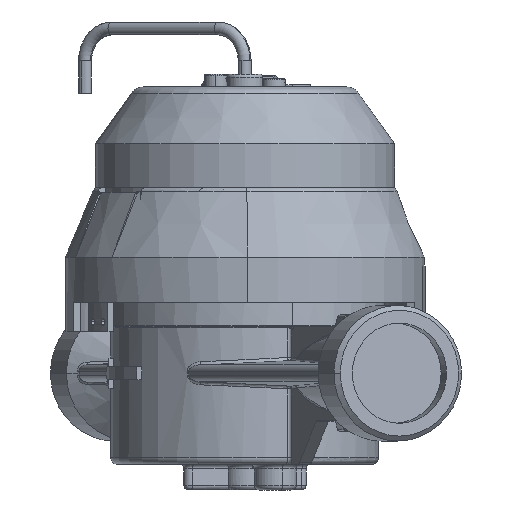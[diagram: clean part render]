
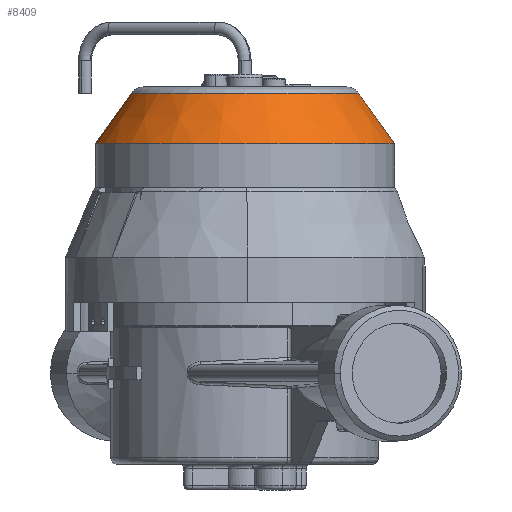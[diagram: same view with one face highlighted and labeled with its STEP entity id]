
A CAD part, front view. The second image highlights one B-rep face of the part: STEP entity #8409.
In plain terms, the highlighted conical face has half-angle 35.507 degrees and reference radius 46.25 mm.
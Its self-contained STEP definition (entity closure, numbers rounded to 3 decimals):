
#1281 = DIRECTION ( 'NONE',  ( 0.581, 0., -0.814 ) ) ;
#3162 = DIRECTION ( 'NONE',  ( -1., 0., 0. ) ) ;
#3364 = EDGE_CURVE ( 'NONE', #4853, #14210, #48915, .T. ) ;
#4049 = EDGE_CURVE ( 'NONE', #4853, #9244, #37454, .T. ) ;
#4815 = CARTESIAN_POINT ( 'NONE',  ( 130.326, 193.717, 168.802 ) ) ;
#4853 = VERTEX_POINT ( 'NONE', #14024 ) ;
#7125 = AXIS2_PLACEMENT_3D ( 'NONE', #50270, #46332, #3162 ) ;
#8409 = ADVANCED_FACE ( 'NONE', ( #28457 ), #12176, .T. ) ;
#9244 = VERTEX_POINT ( 'NONE', #4815 ) ;
#10560 = ORIENTED_EDGE ( 'NONE', *, *, #4049, .T. ) ;
#12176 = CONICAL_SURFACE ( 'NONE', #49201, 46.25, 0.62 ) ;
#14024 = CARTESIAN_POINT ( 'NONE',  ( 200.518, 193.717, 168.802 ) ) ;
#14210 = VERTEX_POINT ( 'NONE', #32170 ) ;
#14300 = VERTEX_POINT ( 'NONE', #45550 ) ;
#15478 = CARTESIAN_POINT ( 'NONE',  ( 165.422, 193.717, 153.169 ) ) ;
#16081 = VECTOR ( 'NONE', #42329, 1000. ) ;
#21191 = AXIS2_PLACEMENT_3D ( 'NONE', #15478, #51813, #23396 ) ;
#22011 = CIRCLE ( 'NONE', #21191, 46.25 ) ;
#22052 = DIRECTION ( 'NONE',  ( -1., 0., 0. ) ) ;
#23396 = DIRECTION ( 'NONE',  ( -1., 0., 0. ) ) ;
#24592 = EDGE_CURVE ( 'NONE', #14210, #14300, #22011, .T. ) ;
#24970 = ORIENTED_EDGE ( 'NONE', *, *, #38108, .T. ) ;
#25727 = LINE ( 'NONE', #38399, #16081 ) ;
#28457 = FACE_OUTER_BOUND ( 'NONE', #40978, .T. ) ;
#29469 = CARTESIAN_POINT ( 'NONE',  ( 211.672, 193.717, 153.169 ) ) ;
#32170 = CARTESIAN_POINT ( 'NONE',  ( 211.672, 193.717, 153.169 ) ) ;
#32716 = CARTESIAN_POINT ( 'NONE',  ( 165.422, 193.717, 153.169 ) ) ;
#32750 = ORIENTED_EDGE ( 'NONE', *, *, #3364, .F. ) ;
#33630 = ORIENTED_EDGE ( 'NONE', *, *, #24592, .F. ) ;
#37454 = CIRCLE ( 'NONE', #7125, 35.096 ) ;
#38108 = EDGE_CURVE ( 'NONE', #9244, #14300, #25727, .T. ) ;
#38399 = CARTESIAN_POINT ( 'NONE',  ( 119.172, 193.717, 153.169 ) ) ;
#40978 = EDGE_LOOP ( 'NONE', ( #32750, #10560, #24970, #33630 ) ) ;
#42329 = DIRECTION ( 'NONE',  ( -0.581, 0., -0.814 ) ) ;
#45550 = CARTESIAN_POINT ( 'NONE',  ( 119.172, 193.717, 153.169 ) ) ;
#46052 = VECTOR ( 'NONE', #1281, 1000. ) ;
#46332 = DIRECTION ( 'NONE',  ( 0., 0., -1. ) ) ;
#48915 = LINE ( 'NONE', #29469, #46052 ) ;
#49201 = AXIS2_PLACEMENT_3D ( 'NONE', #32716, #49203, #22052 ) ;
#49203 = DIRECTION ( 'NONE',  ( 0., 0., -1. ) ) ;
#50270 = CARTESIAN_POINT ( 'NONE',  ( 165.422, 193.717, 168.802 ) ) ;
#51813 = DIRECTION ( 'NONE',  ( 0., 0., -1. ) ) ;
